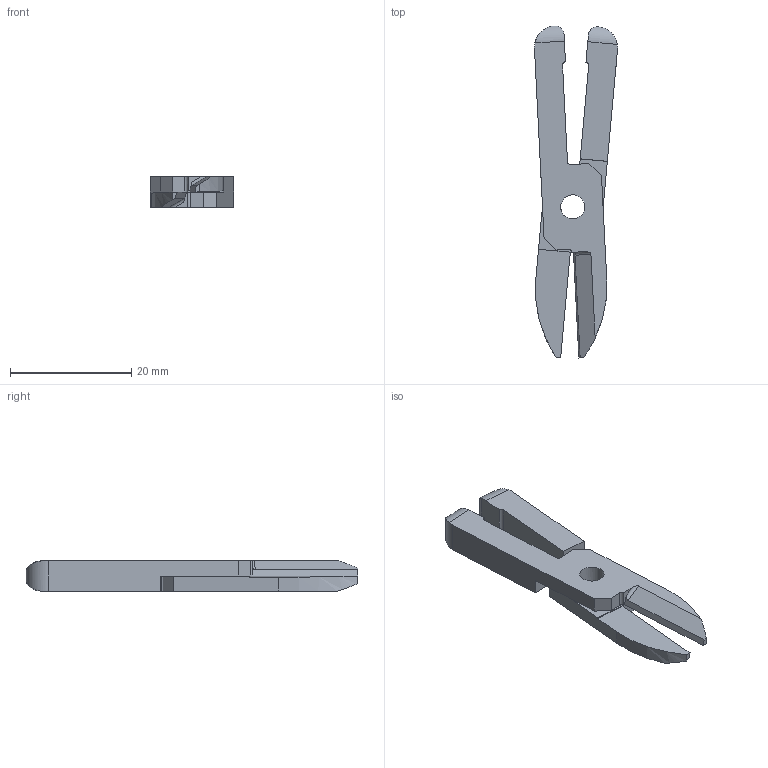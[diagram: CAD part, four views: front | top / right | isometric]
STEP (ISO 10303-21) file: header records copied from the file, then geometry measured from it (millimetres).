
FILE_DESCRIPTION(/* description */ (''),/* implementation_level */ '2;1');
FILE_NAME(/* name */ 'W:\Technik\Konstruktion\CAD-Daten\DJa\Vessel Schneidzangeneinsatz\HW1j\HW1J open.stp',/* time_stamp */ '2016-09-07T07:54:07+02:00',/* author */ ('DJansen'),/* organization */ (''),/* preprocessor_version */ 'ST-DEVELOPER v16.1',/* originating_system */ 'Autodesk Inventor 2016',/* authorisation */ '');
FILE_SCHEMA (('AUTOMOTIVE_DESIGN { 1 0 10303 214 3 1 1 }'));
Length unit declared in the file: centimetre
Products named in the file (1): HW1J Baugruppe
Bounding box: 13.74 x 54.87 x 5 mm (x, y, z)
Volume: 1904.7 mm3; surface area: 1845.7 mm2
Topology: 1 solids, 1 shells, 59 faces, 162 edges, 105 vertices
Faces by surface type: plane 40, cylinder 19
Full cylindrical faces by diameter (mm): 4 x1
Entity records: 1946 total; most frequent: CARTESIAN_POINT 412, ORIENTED_EDGE 320, DIRECTION 308, EDGE_CURVE 160, LINE 116, VECTOR 116, VERTEX_POINT 104, AXIS2_PLACEMENT_3D 96
